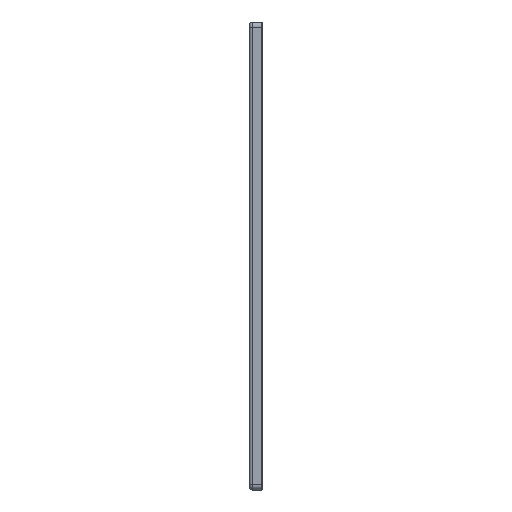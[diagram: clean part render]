
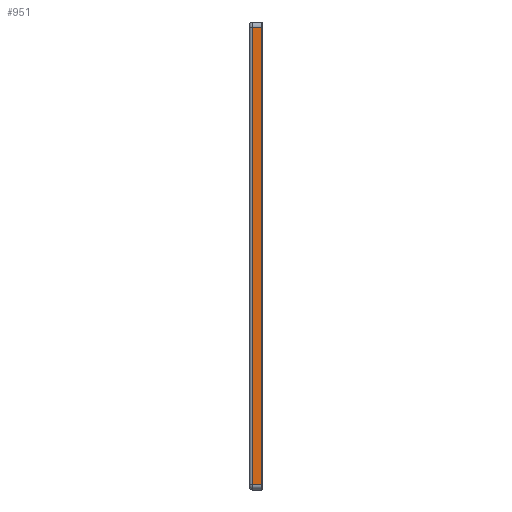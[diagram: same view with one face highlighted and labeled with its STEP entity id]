
A CAD part, left-side view. The second image highlights one B-rep face of the part: STEP entity #951.
In plain terms, the highlighted planar face has unit normal (-1, 0, 0).
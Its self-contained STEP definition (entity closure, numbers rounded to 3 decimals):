
#951 = ADVANCED_FACE ( 'NONE', ( #13111 ), #14328, .F. ) ;
#1395 = VERTEX_POINT ( 'NONE', #14473 ) ;
#1398 = VERTEX_POINT ( 'NONE', #14476 ) ;
#1400 = VERTEX_POINT ( 'NONE', #14478 ) ;
#1406 = VERTEX_POINT ( 'NONE', #14484 ) ;
#2287 = EDGE_CURVE ( 'NONE', #1395, #1406, #17184, .T. ) ;
#2299 = EDGE_CURVE ( 'NONE', #1406, #1398, #17197, .T. ) ;
#2300 = EDGE_CURVE ( 'NONE', #1400, #1395, #17196, .T. ) ;
#2305 = EDGE_CURVE ( 'NONE', #1398, #1400, #17203, .T. ) ;
#8114 = EDGE_LOOP ( 'NONE', ( #8334, #8335, #8458, #8336 ) ) ;
#8334 = ORIENTED_EDGE ( 'NONE', *, *, #2305, .T. ) ;
#8335 = ORIENTED_EDGE ( 'NONE', *, *, #2300, .T. ) ;
#8336 = ORIENTED_EDGE ( 'NONE', *, *, #2299, .T. ) ;
#8458 = ORIENTED_EDGE ( 'NONE', *, *, #2287, .T. ) ;
#13111 = FACE_OUTER_BOUND ( 'NONE', #8114, .T. ) ;
#13946 = AXIS2_PLACEMENT_3D ( 'NONE', #14331, #14332, #14333 ) ;
#14328 = PLANE ( 'NONE',  #13946 ) ;
#14331 = CARTESIAN_POINT ( 'NONE',  ( -375., 13., 225. ) ) ;
#14332 = DIRECTION ( 'NONE',  ( 1., 0., 0. ) ) ;
#14333 = DIRECTION ( 'NONE',  ( 0., 0., -1. ) ) ;
#14473 = CARTESIAN_POINT ( 'NONE',  ( -375., 1., 220. ) ) ;
#14476 = CARTESIAN_POINT ( 'NONE',  ( -375., 10., -220. ) ) ;
#14478 = CARTESIAN_POINT ( 'NONE',  ( -375., 1., -220. ) ) ;
#14484 = CARTESIAN_POINT ( 'NONE',  ( -375., 10., 220. ) ) ;
#17097 = CARTESIAN_POINT ( 'NONE',  ( -375., 13., 220. ) ) ;
#17104 = DIRECTION ( 'NONE',  ( 0., 1., 0. ) ) ;
#17127 = CARTESIAN_POINT ( 'NONE',  ( -375., 10., 225. ) ) ;
#17128 = CARTESIAN_POINT ( 'NONE',  ( -375., 1., 225. ) ) ;
#17138 = DIRECTION ( 'NONE',  ( 0., 0., -1. ) ) ;
#17139 = DIRECTION ( 'NONE',  ( 0., 0., 1. ) ) ;
#17141 = CARTESIAN_POINT ( 'NONE',  ( -375., 13., -220. ) ) ;
#17184 = LINE ( 'NONE', #17097, #17186 ) ;
#17186 = VECTOR ( 'NONE', #17104, 1000. ) ;
#17196 = LINE ( 'NONE', #17128, #17200 ) ;
#17197 = LINE ( 'NONE', #17127, #17201 ) ;
#17200 = VECTOR ( 'NONE', #17139, 1000. ) ;
#17201 = VECTOR ( 'NONE', #17138, 1000. ) ;
#17203 = LINE ( 'NONE', #17141, #17207 ) ;
#17207 = VECTOR ( 'NONE', #18317, 1000. ) ;
#18317 = DIRECTION ( 'NONE',  ( 0., -1., 0. ) ) ;
